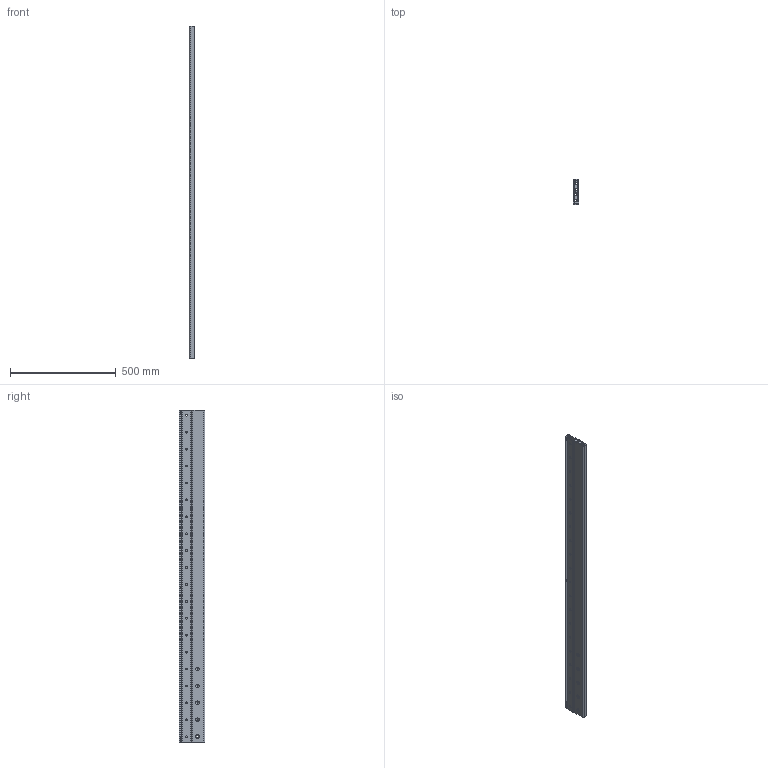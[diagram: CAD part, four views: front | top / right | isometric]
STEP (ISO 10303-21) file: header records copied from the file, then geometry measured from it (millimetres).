
FILE_DESCRIPTION(('STEP AP214'),'1');
FILE_NAME('rail_dss43-1570_00.stp','2017-04-17T03:59:20',('TraceParts'),('TraceParts S.A.'),'Spatial InterOp 3D',' ',' ');
FILE_SCHEMA(('automotive_design'));
Length unit declared in the file: millimetre
Products named in the file (3): rail_dss43-1570_00_1; rail_dss43-1570_00_2; rail_dss43-1570_00_3
Bounding box: 28 x 120 x 1570 mm (x, y, z)
Volume: 2783239 mm3; surface area: 1120076.7 mm2
Topology: 3 solids, 3 shells, 370 faces, 982 edges, 628 vertices
Faces by surface type: cylinder 152, plane 138, cone 80
Entity records: 11771 total; most frequent: DIRECTION 2128, CARTESIAN_POINT 1983, ORIENTED_EDGE 1964, EDGE_CURVE 982, AXIS2_PLACEMENT_3D 773, VERTEX_POINT 628, LINE 582, VECTOR 582
